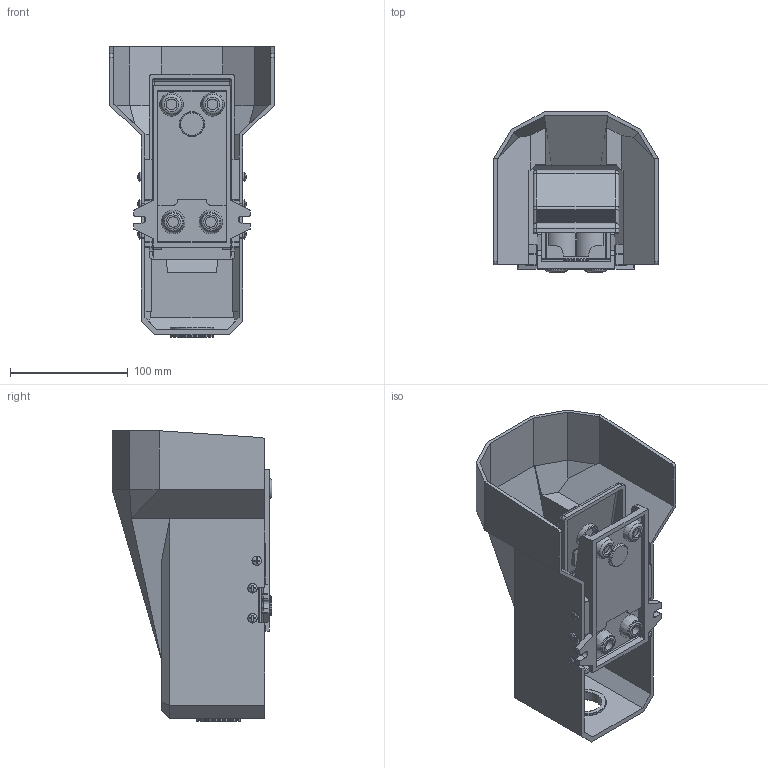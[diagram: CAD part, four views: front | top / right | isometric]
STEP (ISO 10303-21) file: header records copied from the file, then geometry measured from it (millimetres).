
FILE_DESCRIPTION(/* description */ ('STEP AP214'),/* implementation_level */ '2;1');
FILE_NAME(/* name */ '84-4FF-511-14-H.stp',/* time_stamp */ '2026-01-15T08:40:02+01:00',/* author */ ('Tschernatsch'),/* organization */ ('CADENAS'),/* preprocessor_version */ 'ST-DEVELOPER v20',/* originating_system */ 'Autodesk Inventor 2024',/* authorisation */ ' ');
FILE_SCHEMA (('AUTOMOTIVE_DESIGN { 1 0 10303 214 3 1 1 }'));
Length unit declared in the file: millimetre
Products named in the file (4): 4F210-08G; 4F210-08G3; 4F210-08G4; 4F210-08G1
Assembly tree (3 placements, depth 2):
  4F210-08G
    4F210-08G3
    4F210-08G4
    4F210-08G1
Bounding box: 140 x 136 x 247 mm (x, y, z)
Volume: 528348.1 mm3; surface area: 276806.4 mm2
Topology: 3 solids, 3 shells, 717 faces, 1801 edges, 1148 vertices
Faces by surface type: plane 422, cylinder 203, torus 37, cone 27, sphere 14, bspline 14
Full cylindrical faces by diameter (mm): 4 x12, 6 x2, 7 x2, 8 x6, 9 x4, 11.445 x5, 14 x2, 15.7 x1, 21 x2, 28.8 x1, 36.8 x2
Entity records: 22570 total; most frequent: CARTESIAN_POINT 4290, DIRECTION 3792, ORIENTED_EDGE 3586, EDGE_CURVE 1793, AXIS2_PLACEMENT_3D 1336, VERTEX_POINT 1148, LINE 1120, VECTOR 1120
